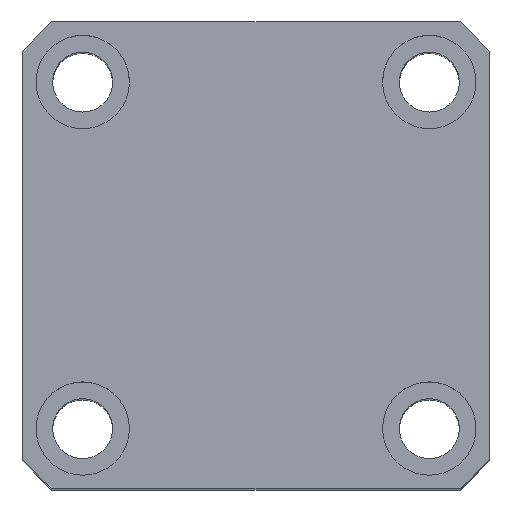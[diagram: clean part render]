
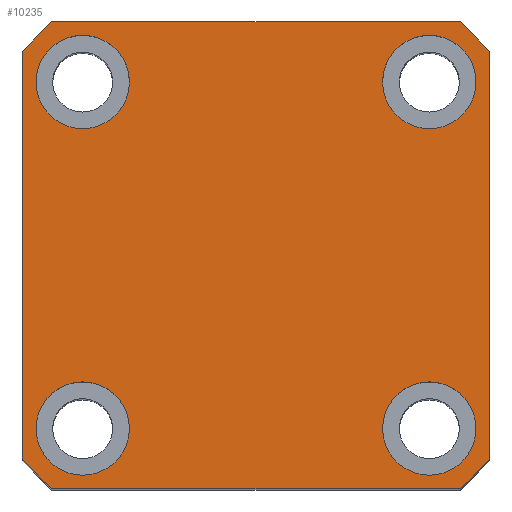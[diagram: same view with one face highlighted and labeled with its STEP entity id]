
A CAD part, top view. The second image highlights one B-rep face of the part: STEP entity #10235.
In plain terms, the highlighted planar face has unit normal (0, 0, 1).
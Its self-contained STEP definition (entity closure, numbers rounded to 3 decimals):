
#27 = DIRECTION ( 'NONE',  ( 1., 0., 0. ) ) ;
#45 = CIRCLE ( 'NONE', #8088, 7. ) ;
#52 = CARTESIAN_POINT ( 'NONE',  ( -26., -26., 125. ) ) ;
#68 = DIRECTION ( 'NONE',  ( 1., 0., 0. ) ) ;
#170 = CARTESIAN_POINT ( 'NONE',  ( 30.615, 35., 125. ) ) ;
#189 = ORIENTED_EDGE ( 'NONE', *, *, #3691, .F. ) ;
#195 = EDGE_CURVE ( 'NONE', #1124, #4937, #2225, .T. ) ;
#204 = CARTESIAN_POINT ( 'NONE',  ( 19., -26., 125. ) ) ;
#320 = EDGE_LOOP ( 'NONE', ( #8575, #12427, #7827, #3747, #5370, #1949, #4292, #3203 ) ) ;
#415 = CARTESIAN_POINT ( 'NONE',  ( -33., -26., 125. ) ) ;
#448 = DIRECTION ( 'NONE',  ( 1., 0., 0. ) ) ;
#571 = ORIENTED_EDGE ( 'NONE', *, *, #13529, .F. ) ;
#710 = DIRECTION ( 'NONE',  ( 1., 0., 0. ) ) ;
#801 = EDGE_CURVE ( 'NONE', #7514, #12713, #4826, .T. ) ;
#969 = EDGE_LOOP ( 'NONE', ( #2512, #571 ) ) ;
#1119 = DIRECTION ( 'NONE',  ( 1., 0., 0. ) ) ;
#1124 = VERTEX_POINT ( 'NONE', #5164 ) ;
#1295 = VERTEX_POINT ( 'NONE', #9227 ) ;
#1458 = DIRECTION ( 'NONE',  ( -1., 0., 0. ) ) ;
#1551 = AXIS2_PLACEMENT_3D ( 'NONE', #13103, #4518, #12869 ) ;
#1749 = DIRECTION ( 'NONE',  ( 0., 1., 0. ) ) ;
#1876 = CIRCLE ( 'NONE', #2681, 7. ) ;
#1912 = CARTESIAN_POINT ( 'NONE',  ( -19., 26., 125. ) ) ;
#1949 = ORIENTED_EDGE ( 'NONE', *, *, #7042, .T. ) ;
#1950 = FACE_BOUND ( 'NONE', #969, .T. ) ;
#2006 = DIRECTION ( 'NONE',  ( 0., 0., 1. ) ) ;
#2120 = CARTESIAN_POINT ( 'NONE',  ( -35., -35., 125. ) ) ;
#2162 = VECTOR ( 'NONE', #5564, 1000. ) ;
#2198 = CARTESIAN_POINT ( 'NONE',  ( 33., -26., 125. ) ) ;
#2225 = CIRCLE ( 'NONE', #1551, 7. ) ;
#2436 = CIRCLE ( 'NONE', #7777, 7. ) ;
#2482 = CARTESIAN_POINT ( 'NONE',  ( 26., -26., 125. ) ) ;
#2512 = ORIENTED_EDGE ( 'NONE', *, *, #13413, .F. ) ;
#2570 = EDGE_CURVE ( 'NONE', #7501, #6095, #4015, .T. ) ;
#2593 = AXIS2_PLACEMENT_3D ( 'NONE', #4915, #12240, #5972 ) ;
#2638 = ORIENTED_EDGE ( 'NONE', *, *, #5961, .F. ) ;
#2681 = AXIS2_PLACEMENT_3D ( 'NONE', #2482, #9809, #3522 ) ;
#2753 = DIRECTION ( 'NONE',  ( 0., 0., 1. ) ) ;
#2794 = ORIENTED_EDGE ( 'NONE', *, *, #7384, .F. ) ;
#3105 = CARTESIAN_POINT ( 'NONE',  ( -35., -30.615, 125. ) ) ;
#3156 = CIRCLE ( 'NONE', #12895, 7. ) ;
#3203 = ORIENTED_EDGE ( 'NONE', *, *, #10006, .T. ) ;
#3522 = DIRECTION ( 'NONE',  ( 1., 0., 0. ) ) ;
#3657 = DIRECTION ( 'NONE',  ( 1., 0., 0. ) ) ;
#3691 = EDGE_CURVE ( 'NONE', #4937, #1124, #10233, .T. ) ;
#3747 = ORIENTED_EDGE ( 'NONE', *, *, #12812, .T. ) ;
#4015 = LINE ( 'NONE', #9743, #9602 ) ;
#4292 = ORIENTED_EDGE ( 'NONE', *, *, #5433, .T. ) ;
#4299 = DIRECTION ( 'NONE',  ( 0., 0., 1. ) ) ;
#4443 = EDGE_LOOP ( 'NONE', ( #12651, #2794 ) ) ;
#4518 = DIRECTION ( 'NONE',  ( 0., 0., 1. ) ) ;
#4601 = CIRCLE ( 'NONE', #12118, 46.5 ) ;
#4672 = AXIS2_PLACEMENT_3D ( 'NONE', #13229, #6993, #710 ) ;
#4708 = FACE_BOUND ( 'NONE', #8992, .T. ) ;
#4729 = CARTESIAN_POINT ( 'NONE',  ( 26., 26., 125. ) ) ;
#4826 = LINE ( 'NONE', #6970, #10401 ) ;
#4834 = EDGE_CURVE ( 'NONE', #12577, #6640, #1876, .T. ) ;
#4915 = CARTESIAN_POINT ( 'NONE',  ( 26., 26., 125. ) ) ;
#4937 = VERTEX_POINT ( 'NONE', #415 ) ;
#5138 = CARTESIAN_POINT ( 'NONE',  ( -35., 30.615, 125. ) ) ;
#5140 = VECTOR ( 'NONE', #9452, 1000. ) ;
#5164 = CARTESIAN_POINT ( 'NONE',  ( -19., -26., 125. ) ) ;
#5370 = ORIENTED_EDGE ( 'NONE', *, *, #8978, .T. ) ;
#5433 = EDGE_CURVE ( 'NONE', #7481, #9151, #7575, .T. ) ;
#5457 = AXIS2_PLACEMENT_3D ( 'NONE', #7816, #9945, #3657 ) ;
#5564 = DIRECTION ( 'NONE',  ( 0., -1., 0. ) ) ;
#5769 = CIRCLE ( 'NONE', #2593, 7. ) ;
#5790 = DIRECTION ( 'NONE',  ( 1., 0., 0. ) ) ;
#5876 = VERTEX_POINT ( 'NONE', #10911 ) ;
#5961 = EDGE_CURVE ( 'NONE', #6336, #5876, #45, .T. ) ;
#5972 = DIRECTION ( 'NONE',  ( 1., 0., 0. ) ) ;
#6095 = VERTEX_POINT ( 'NONE', #13359 ) ;
#6169 = VERTEX_POINT ( 'NONE', #1912 ) ;
#6296 = DIRECTION ( 'NONE',  ( 0., 0., 1. ) ) ;
#6336 = VERTEX_POINT ( 'NONE', #8307 ) ;
#6343 = DIRECTION ( 'NONE',  ( 0., 0., 1. ) ) ;
#6353 = VERTEX_POINT ( 'NONE', #3105 ) ;
#6640 = VERTEX_POINT ( 'NONE', #204 ) ;
#6723 = DIRECTION ( 'NONE',  ( 0., 0., 1. ) ) ;
#6800 = CARTESIAN_POINT ( 'NONE',  ( 30.615, -35., 125. ) ) ;
#6960 = AXIS2_PLACEMENT_3D ( 'NONE', #52, #7378, #1119 ) ;
#6970 = CARTESIAN_POINT ( 'NONE',  ( 35., 35., 125. ) ) ;
#6993 = DIRECTION ( 'NONE',  ( 0., 0., 1. ) ) ;
#7042 = EDGE_CURVE ( 'NONE', #6353, #7481, #10042, .T. ) ;
#7378 = DIRECTION ( 'NONE',  ( 0., 0., 1. ) ) ;
#7384 = EDGE_CURVE ( 'NONE', #6640, #12577, #3156, .T. ) ;
#7481 = VERTEX_POINT ( 'NONE', #11647 ) ;
#7501 = VERTEX_POINT ( 'NONE', #170 ) ;
#7514 = VERTEX_POINT ( 'NONE', #8545 ) ;
#7561 = AXIS2_PLACEMENT_3D ( 'NONE', #9025, #2753, #10074 ) ;
#7575 = LINE ( 'NONE', #2120, #5140 ) ;
#7777 = AXIS2_PLACEMENT_3D ( 'NONE', #8263, #2006, #9342 ) ;
#7816 = CARTESIAN_POINT ( 'NONE',  ( 0., 0., 125. ) ) ;
#7827 = ORIENTED_EDGE ( 'NONE', *, *, #2570, .T. ) ;
#8065 = EDGE_CURVE ( 'NONE', #5876, #6336, #5769, .T. ) ;
#8088 = AXIS2_PLACEMENT_3D ( 'NONE', #4729, #12050, #5790 ) ;
#8263 = CARTESIAN_POINT ( 'NONE',  ( -26., 26., 125. ) ) ;
#8307 = CARTESIAN_POINT ( 'NONE',  ( 19., 26., 125. ) ) ;
#8480 = CIRCLE ( 'NONE', #8534, 46.5 ) ;
#8534 = AXIS2_PLACEMENT_3D ( 'NONE', #10582, #4299, #11629 ) ;
#8545 = CARTESIAN_POINT ( 'NONE',  ( 35., -30.615, 125. ) ) ;
#8575 = ORIENTED_EDGE ( 'NONE', *, *, #801, .T. ) ;
#8632 = CARTESIAN_POINT ( 'NONE',  ( -35., 35., 125. ) ) ;
#8874 = EDGE_CURVE ( 'NONE', #12713, #7501, #4601, .T. ) ;
#8978 = EDGE_CURVE ( 'NONE', #9903, #6353, #9856, .T. ) ;
#8992 = EDGE_LOOP ( 'NONE', ( #9303, #189 ) ) ;
#9025 = CARTESIAN_POINT ( 'NONE',  ( 0., 0., 125. ) ) ;
#9151 = VERTEX_POINT ( 'NONE', #6800 ) ;
#9227 = CARTESIAN_POINT ( 'NONE',  ( -33., 26., 125. ) ) ;
#9303 = ORIENTED_EDGE ( 'NONE', *, *, #195, .F. ) ;
#9342 = DIRECTION ( 'NONE',  ( 1., 0., 0. ) ) ;
#9431 = AXIS2_PLACEMENT_3D ( 'NONE', #12959, #6723, #448 ) ;
#9452 = DIRECTION ( 'NONE',  ( 1., 0., 0. ) ) ;
#9602 = VECTOR ( 'NONE', #1458, 1000. ) ;
#9743 = CARTESIAN_POINT ( 'NONE',  ( -35., 35., 125. ) ) ;
#9809 = DIRECTION ( 'NONE',  ( 0., 0., 1. ) ) ;
#9856 = LINE ( 'NONE', #8632, #2162 ) ;
#9903 = VERTEX_POINT ( 'NONE', #5138 ) ;
#9945 = DIRECTION ( 'NONE',  ( 0., 0., 1. ) ) ;
#10002 = ORIENTED_EDGE ( 'NONE', *, *, #8065, .F. ) ;
#10006 = EDGE_CURVE ( 'NONE', #9151, #7514, #8480, .T. ) ;
#10042 = CIRCLE ( 'NONE', #7561, 46.5 ) ;
#10074 = DIRECTION ( 'NONE',  ( 1., 0., 0. ) ) ;
#10233 = CIRCLE ( 'NONE', #6960, 7. ) ;
#10235 = ADVANCED_FACE ( 'NONE', ( #4708, #10287, #10609, #1950, #12716 ), #13018, .T. ) ;
#10287 = FACE_BOUND ( 'NONE', #4443, .T. ) ;
#10401 = VECTOR ( 'NONE', #1749, 1000. ) ;
#10582 = CARTESIAN_POINT ( 'NONE',  ( 0., 0., 125. ) ) ;
#10609 = FACE_BOUND ( 'NONE', #11910, .T. ) ;
#10911 = CARTESIAN_POINT ( 'NONE',  ( 33., 26., 125. ) ) ;
#11106 = CIRCLE ( 'NONE', #4672, 7. ) ;
#11629 = DIRECTION ( 'NONE',  ( 1., 0., 0. ) ) ;
#11647 = CARTESIAN_POINT ( 'NONE',  ( -30.615, -35., 125. ) ) ;
#11710 = CIRCLE ( 'NONE', #9431, 46.5 ) ;
#11910 = EDGE_LOOP ( 'NONE', ( #10002, #2638 ) ) ;
#12050 = DIRECTION ( 'NONE',  ( 0., 0., 1. ) ) ;
#12118 = AXIS2_PLACEMENT_3D ( 'NONE', #12600, #6343, #68 ) ;
#12240 = DIRECTION ( 'NONE',  ( 0., 0., 1. ) ) ;
#12427 = ORIENTED_EDGE ( 'NONE', *, *, #8874, .T. ) ;
#12559 = CARTESIAN_POINT ( 'NONE',  ( 26., -26., 125. ) ) ;
#12577 = VERTEX_POINT ( 'NONE', #2198 ) ;
#12600 = CARTESIAN_POINT ( 'NONE',  ( 0., 0., 125. ) ) ;
#12651 = ORIENTED_EDGE ( 'NONE', *, *, #4834, .F. ) ;
#12713 = VERTEX_POINT ( 'NONE', #12826 ) ;
#12716 = FACE_OUTER_BOUND ( 'NONE', #320, .T. ) ;
#12812 = EDGE_CURVE ( 'NONE', #6095, #9903, #11710, .T. ) ;
#12826 = CARTESIAN_POINT ( 'NONE',  ( 35., 30.615, 125. ) ) ;
#12869 = DIRECTION ( 'NONE',  ( 1., 0., 0. ) ) ;
#12895 = AXIS2_PLACEMENT_3D ( 'NONE', #12559, #6296, #27 ) ;
#12959 = CARTESIAN_POINT ( 'NONE',  ( 0., 0., 125. ) ) ;
#13018 = PLANE ( 'NONE',  #5457 ) ;
#13103 = CARTESIAN_POINT ( 'NONE',  ( -26., -26., 125. ) ) ;
#13229 = CARTESIAN_POINT ( 'NONE',  ( -26., 26., 125. ) ) ;
#13359 = CARTESIAN_POINT ( 'NONE',  ( -30.615, 35., 125. ) ) ;
#13413 = EDGE_CURVE ( 'NONE', #6169, #1295, #11106, .T. ) ;
#13529 = EDGE_CURVE ( 'NONE', #1295, #6169, #2436, .T. ) ;
